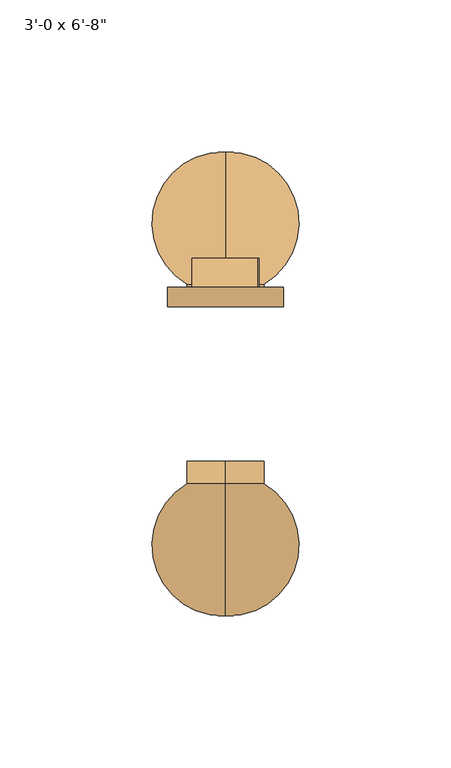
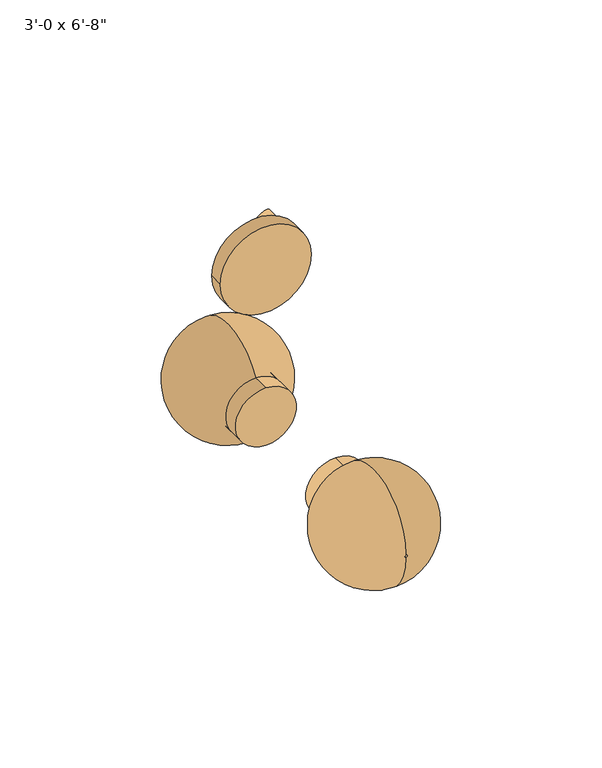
"""IFC4 building model written with IfcOpenShell, lengths in millimetres: door geometry."""

from ifc_helpers import new_model, si_unit, point, frame, frame_2d, origin, place, context, project, spatial, polyline, circle_curve, ellipse_curve, trimmed, segment, composite_curve, outline, extrude, source, transform, mapped, element, save
from ifc_brep_helpers import plane_surface, revolved_surface, extruded_surface, advanced_brep


def door_4347636e(model_context):
    return source(origin(), model_context, "Body", "SolidModel", [
        advanced_brep(
        [(-383.1583051, 15.875, 1094.4761273), (-404.2416949, 15.875, 1067.6988727), (-383.1583051, 6.35, 1094.4761273), (-404.2416949, 6.35, 1067.6988727)],
        [
            (0, 1, ellipse_curve(frame((-393.7, 15.875, 1081.0875), z_axis=(0.0, 1.0, 0.0), x_axis=(-0.6186216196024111, 0.0, -0.7856890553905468)), 17.0406183, 4.1875687)),
            (1, 0, ellipse_curve(frame((-393.7, 15.875, 1081.0875), z_axis=(0.0, 1.0, 0.0), x_axis=(-0.6186216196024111, 0.0, -0.7856890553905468)), 17.0406183, 4.1875687)),
            (2, 3, ellipse_curve(frame((-393.7, 6.35, 1081.0875), z_axis=(0.0, -1.0, 0.0), x_axis=(-0.6186216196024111, 0.0, -0.7856890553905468)), 17.0406183, 4.1875687)),
            (3, 2, ellipse_curve(frame((-393.7, 6.35, 1081.0875), z_axis=(0.0, -1.0, 0.0), x_axis=(-0.6186216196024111, 0.0, -0.7856890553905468)), 17.0406183, 4.1875687)),
            (1, 3),
            (2, 0),
        ],
        [
            plane_surface(frame((-404.2416949, 15.875, 1067.6988727), z_axis=(0.0, 1.0, 0.0), x_axis=(0.7856890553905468, 0.0, -0.6186216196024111))),
            plane_surface(frame((-404.2416949, 6.35, 1067.6988727), z_axis=(0.0, -1.0, 0.0), x_axis=(-0.7856890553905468, 0.0, 0.6186216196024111))),
            extruded_surface(trimmed(ellipse_curve(frame((-393.7, 6.35, 1081.0875), z_axis=(0.0, -1.0, 0.0), x_axis=(-0.6186216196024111, 0.0, -0.7856890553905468)), 17.0406183, 4.1875687), [point((-383.1583051, 6.35, 1094.4761273))], [point((-404.2416949, 6.35, 1067.6988727))], True, "CARTESIAN"), (0.0, -9.524999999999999, 0.0), 9.524999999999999),
            extruded_surface(trimmed(ellipse_curve(frame((-393.7, 6.35, 1081.0875), z_axis=(0.0, -1.0, 0.0), x_axis=(-0.6186216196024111, 0.0, -0.7856890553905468)), 17.0406183, 4.1875687), [point((-404.2416949, 6.35, 1067.6988727))], [point((-383.1583051, 6.35, 1094.4761273))], True, "CARTESIAN"), (0.0, -9.524999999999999, 0.0), 9.524999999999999),
        ],
        [
            (0, [[1, 2]]),
            (1, [[3, 4]]),
            (2, [[5, -3, 6, -2]]),
            (3, [[-6, -4, -5, -1]]),
        ],
    ),
        extrude(outline(composite_curve([segment(trimmed(circle_curve(frame_2d((1081.0875, -393.7)), 19.05), [point((1081.0875, -412.75))], [point((1081.0875, -374.65))], False, "CARTESIAN"), True, "CONTINUOUS"), segment(trimmed(circle_curve(frame_2d((1081.0875, -393.7)), 19.05), [point((1081.0875, -374.65))], [point((1081.0875, -412.75))], False, "CARTESIAN"), True, "CONTINUOUS")], self_intersect=False)), frame((0.0, 0.0, 0.0), z_axis=(0.0, 1.0, 0.0), x_axis=(0.0, 0.0, 1.0)), (0.0, 0.0, 1.0), 6.35),
        advanced_brep(
        [(-393.7, 12.7, 1028.7), (-393.7, 7.3563035, 1028.7), (-393.7, 7.3563035, 1003.3), (-393.7, 12.7, 1003.3), (-393.7, 50.8, 1016.4831019), (-393.7, 12.7, 1016.4831019), (-393.7, 12.7, 1015.5168981), (-393.7, 50.8, 1015.5168981)],
        [
            (0, 1),
            (1, 2, circle_curve(frame((-393.7, 7.3563035, 1016.0), z_axis=(0.0, -1.0, 0.0), x_axis=(0.0, 0.0, -1.0)), 12.7)),
            (2, 3),
            (3, 0, circle_curve(frame((-393.7, 12.7, 1016.0), z_axis=(0.0, 1.0, 0.0), x_axis=(0.0, 0.0, -1.0)), 12.7)),
            (4, 5),
            (5, 6, circle_curve(frame((-393.7, 12.7, 1016.0), z_axis=(0.0, -1.0, 0.0), x_axis=(0.0, 0.0, -1.0)), 0.4831019)),
            (6, 7),
            (7, 4, circle_curve(frame((-393.7, 50.8, 1016.0), z_axis=(0.0, 1.0, 0.0), x_axis=(0.0, 0.0, -1.0)), 0.4831019)),
            (2, 1, circle_curve(frame((-393.7, 7.3563035, 1016.0), z_axis=(0.0, -1.0, 0.0), x_axis=(0.0, 0.0, 1.0)), 12.7)),
            (0, 3, circle_curve(frame((-393.7, 12.7, 1016.0), z_axis=(0.0, 1.0, 0.0), x_axis=(0.0, 0.0, 1.0)), 12.7)),
            (5, 6, circle_curve(frame((-393.7, 12.7, 1016.0), z_axis=(0.0, 1.0, 0.0), x_axis=(0.0, 0.0, 1.0)), 0.4831019)),
            (4, 7, circle_curve(frame((-393.7, 50.8, 1016.0), z_axis=(0.0, 1.0, 0.0), x_axis=(0.0, 0.0, 1.0)), 0.4831019)),
            (1, 4, circle_curve(frame((-393.7, 27.5182494, 1017.0444862), z_axis=(-1.0, 0.0, 0.0), x_axis=(0.0, 1.0, 0.0)), 23.2885178)),
            (7, 2, circle_curve(frame((-393.7, 27.5182494, 1014.9555138), z_axis=(-1.0, 0.0, 0.0), x_axis=(0.0, 1.0, 0.0)), 23.2885178)),
        ],
        [
            revolved_surface(polyline([(-393.7, 7.3563035, 1003.3), (-393.7, 12.7, 1003.3)]), (-393.7, 12.7, 1016.0), (0.0, -1.0, 0.0)),
            revolved_surface(polyline([(-393.7, 12.7, 1015.5168981), (-393.7, 50.8, 1015.5168981)]), (-393.7, 12.7, 1016.0), (0.0, -1.0, 0.0)),
            revolved_surface(polyline([(-393.7, 7.3563035, 1028.7), (-393.7, 12.7, 1028.7)]), (-393.7, 12.7, 1016.0), (0.0, -1.0, 0.0)),
            plane_surface(frame((-393.7, 12.7, 1016.0), z_axis=(0.0, -1.0, 0.0), x_axis=(0.0, 0.0, 1.0))),
            revolved_surface(polyline([(-393.7, 12.7, 1016.4831019), (-393.7, 50.8, 1016.4831019)]), (-393.7, 12.7, 1016.0), (0.0, -1.0, 0.0)),
            revolved_surface(trimmed(ellipse_curve(frame((-393.7, 27.5182494, 1014.9555138), z_axis=(-1.0, 0.0, 0.0), x_axis=(0.0, 1.0, 0.0)), 23.2885178, 23.2885178), [point((-393.7, 50.8, 1015.5168981))], [point((-393.7, 7.3563035, 1003.3))], True, "CARTESIAN"), (-393.7, 12.7, 1016.0), (0.0, -1.0, 0.0)),
            revolved_surface(trimmed(ellipse_curve(frame((-393.7, 27.5182494, 1017.0444862), z_axis=(1.0, 0.0, 0.0), x_axis=(0.0, 1.0, 0.0)), 23.2885178, 23.2885178), [point((-393.7, 50.8, 1016.4831019))], [point((-393.7, 7.3563035, 1028.7))], True, "CARTESIAN"), (-393.7, 12.7, 1016.0), (0.0, -1.0, 0.0)),
        ],
        [
            (0, [[1, 2, 3, 4]]),
            (1, [[5, 6, 7, 8]]),
            (2, [[-3, 9, -1, 10]]),
            (3, [[-4, -10], [-6, 11]]),
            (4, [[-7, -11, -5, 12]]),
            (5, [[13, -8, 14, -2]]),
            (6, [[-14, -12, -13, -9]]),
        ],
    ),
        extrude(outline(composite_curve([segment(trimmed(circle_curve(frame_2d((1016.0, -393.7)), 12.7), [point((1028.7, -393.7))], [point((1003.3, -393.7))], False, "CARTESIAN"), True, "CONTINUOUS"), segment(trimmed(circle_curve(frame_2d((1016.0, -393.7)), 12.7), [point((1003.3, -393.7))], [point((1028.7, -393.7))], False, "CARTESIAN"), True, "CONTINUOUS")], self_intersect=False)), frame((0.0, 0.0, 0.0), z_axis=(0.0, 1.0, 0.0), x_axis=(0.0, 0.0, 1.0)), (0.0, 0.0, 1.0), 12.7),
        advanced_brep(
        [(-393.7, -63.5, 1028.7), (-393.7, -58.1563035, 1028.7), (-393.7, -58.1563035, 1003.3), (-393.7, -63.5, 1003.3), (-393.7, -101.6, 1016.4831019), (-393.7, -63.5, 1016.4831019), (-393.7, -63.5, 1015.5168981), (-393.7, -101.6, 1015.5168981)],
        [
            (0, 1),
            (1, 2, circle_curve(frame((-393.7, -58.1563035, 1016.0), z_axis=(0.0, 1.0, 0.0), x_axis=(0.0, 0.0, -1.0)), 12.7)),
            (2, 3),
            (3, 0, circle_curve(frame((-393.7, -63.5, 1016.0), z_axis=(0.0, -1.0, 0.0), x_axis=(0.0, 0.0, -1.0)), 12.7)),
            (4, 5),
            (5, 6, circle_curve(frame((-393.7, -63.5, 1016.0), z_axis=(0.0, 1.0, 0.0), x_axis=(0.0, 0.0, -1.0)), 0.4831019)),
            (6, 7),
            (7, 4, circle_curve(frame((-393.7, -101.6, 1016.0), z_axis=(0.0, -1.0, 0.0), x_axis=(0.0, 0.0, -1.0)), 0.4831019)),
            (2, 1, circle_curve(frame((-393.7, -58.1563035, 1016.0), z_axis=(0.0, 1.0, 0.0), x_axis=(0.0, 0.0, 1.0)), 12.7)),
            (0, 3, circle_curve(frame((-393.7, -63.5, 1016.0), z_axis=(0.0, -1.0, 0.0), x_axis=(0.0, 0.0, 1.0)), 12.7)),
            (5, 6, circle_curve(frame((-393.7, -63.5, 1016.0), z_axis=(0.0, -1.0, 0.0), x_axis=(0.0, 0.0, 1.0)), 0.4831019)),
            (4, 7, circle_curve(frame((-393.7, -101.6, 1016.0), z_axis=(0.0, -1.0, 0.0), x_axis=(0.0, 0.0, 1.0)), 0.4831019)),
            (1, 4, circle_curve(frame((-393.7, -78.3182494, 1017.0444862), z_axis=(1.0, 0.0, 0.0), x_axis=(0.0, -1.0, 0.0)), 23.2885178)),
            (7, 2, circle_curve(frame((-393.7, -78.3182494, 1014.9555138), z_axis=(1.0, 0.0, 0.0), x_axis=(0.0, -1.0, 0.0)), 23.2885178)),
        ],
        [
            revolved_surface(polyline([(-393.7, -58.1563035, 1003.3), (-393.7, -63.5, 1003.3)]), (-393.7, -63.5, 1016.0), (0.0, 1.0, 0.0)),
            revolved_surface(polyline([(-393.7, -63.5, 1015.5168981), (-393.7, -101.6, 1015.5168981)]), (-393.7, -63.5, 1016.0), (0.0, 1.0, 0.0)),
            revolved_surface(polyline([(-393.7, -58.1563035, 1028.7), (-393.7, -63.5, 1028.7)]), (-393.7, -63.5, 1016.0), (0.0, 1.0, 0.0)),
            plane_surface(frame((-393.7, -63.5, 1016.0), z_axis=(0.0, 1.0, 0.0), x_axis=(0.0, 0.0, 1.0))),
            revolved_surface(polyline([(-393.7, -63.5, 1016.4831019), (-393.7, -101.6, 1016.4831019)]), (-393.7, -63.5, 1016.0), (0.0, 1.0, 0.0)),
            revolved_surface(trimmed(ellipse_curve(frame((-393.7, -78.3182494, 1014.9555138), z_axis=(1.0, 0.0, 0.0), x_axis=(0.0, -1.0, 0.0)), 23.2885178, 23.2885178), [point((-393.7, -101.6, 1015.5168981))], [point((-393.7, -58.1563035, 1003.3))], True, "CARTESIAN"), (-393.7, -63.5, 1016.0), (0.0, 1.0, 0.0)),
            revolved_surface(trimmed(ellipse_curve(frame((-393.7, -78.3182494, 1017.0444862), z_axis=(-1.0, 0.0, 0.0), x_axis=(0.0, -1.0, 0.0)), 23.2885178, 23.2885178), [point((-393.7, -101.6, 1016.4831019))], [point((-393.7, -58.1563035, 1028.7))], True, "CARTESIAN"), (-393.7, -63.5, 1016.0), (0.0, 1.0, 0.0)),
        ],
        [
            (0, [[1, 2, 3, 4]]),
            (1, [[5, 6, 7, 8]]),
            (2, [[-3, 9, -1, 10]]),
            (3, [[-4, -10], [-6, 11]]),
            (4, [[-7, -11, -5, 12]]),
            (5, [[13, -8, 14, -2]]),
            (6, [[-14, -12, -13, -9]]),
        ],
    ),
        extrude(outline(composite_curve([segment(trimmed(circle_curve(frame_2d((1016.0, -393.7)), 12.7), [point((1028.7, -393.7))], [point((1003.3, -393.7))], False, "CARTESIAN"), True, "CONTINUOUS"), segment(trimmed(circle_curve(frame_2d((1016.0, -393.7)), 12.7), [point((1003.3, -393.7))], [point((1028.7, -393.7))], False, "CARTESIAN"), True, "CONTINUOUS")], self_intersect=False)), frame((0.0, -63.5, 0.0), z_axis=(0.0, 1.0, 0.0), x_axis=(0.0, 0.0, 1.0)), (0.0, 0.0, 1.0), 12.7),
    ])


if __name__ == "__main__":
    model = new_model("IFC4")
    model_context = context("Model", 3, world=origin())
    ifc_project = project(units=[si_unit("LENGTHUNIT", "METRE", prefix="MILLI")], contexts=[model_context])
    site = spatial("IfcSite", under=ifc_project)
    building = spatial("IfcBuilding", under=site)
    placement = place(None, origin())
    door_shape = door_4347636e(model_context)
    element("IfcDoor", 1, ObjectType="Planitar - Single Door : 3'-0 x 6'-8\"", at=placement, inside=building, context=model_context, shape_type="MappedRepresentation", body=[
        mapped(door_shape, transform((0.0, 0.0, 0.0), x_axis=(1.0, 0.0, 0.0), y_axis=(0.0, 1.0, 0.0), z_axis=(0.0, 0.0, 1.0))),
    ])
    save(model, "model.ifc")
